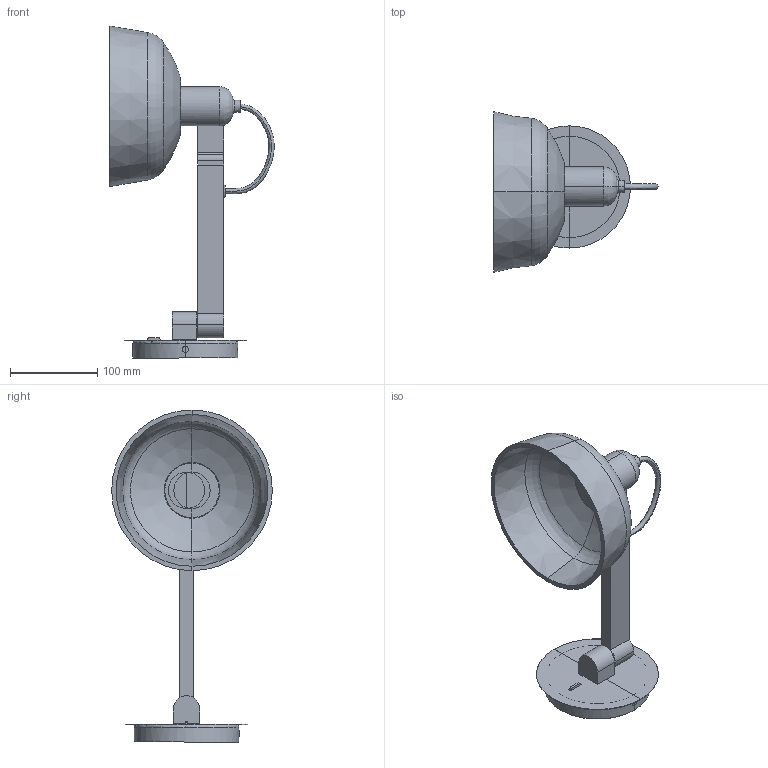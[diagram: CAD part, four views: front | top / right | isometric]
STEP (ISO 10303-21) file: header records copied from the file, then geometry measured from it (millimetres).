
FILE_DESCRIPTION(/* description */ (''),/* implementation_level */ '2;1');
FILE_NAME(/* name */ '20342-116.step',/* time_stamp */ '2024-05-16T16:11:48+02:00',/* author */ ('RenataManzini'),/* organization */ (''),/* preprocessor_version */ 'ST-DEVELOPER v20',/* originating_system */ 'AutoCAD Mechanical',/* authorisation */ '');
FILE_SCHEMA (('AUTOMOTIVE_DESIGN { 1 0 10303 214 3 1 1 }'));
Length unit declared in the file: millimetre
Products named in the file (3): Product; TATAWIN_APLIQUE_BRAZO - structure-648289-_3D_; TATAWIN_APLIQUE_BRAZO - TATAWIN_APLIQUE_BRAZO_dwg_8135007 support 112
x109x15-648177-_3D_
Assembly tree (2 placements, depth 3):
  Product
    TATAWIN_APLIQUE_BRAZO - structure-648289-_3D_
      TATAWIN_APLIQUE_BRAZO - TATAWIN_APLIQUE_BRAZO_dwg_8135007 support 112
x109x15-648177-_3D_
Bounding box: 188.22 x 184.01 x 380.25 mm (x, y, z)
Volume: 526512.9 mm3; surface area: 214063.3 mm2
Topology: 11 solids, 11 shells, 194 faces, 460 edges, 286 vertices
Faces by surface type: plane 87, cylinder 71, torus 16, bspline 10, cone 10
Entity records: 8237 total; most frequent: CARTESIAN_POINT 3703, DIRECTION 929, ORIENTED_EDGE 914, EDGE_CURVE 457, AXIS2_PLACEMENT_3D 350, VERTEX_POINT 281, LINE 229, VECTOR 229
